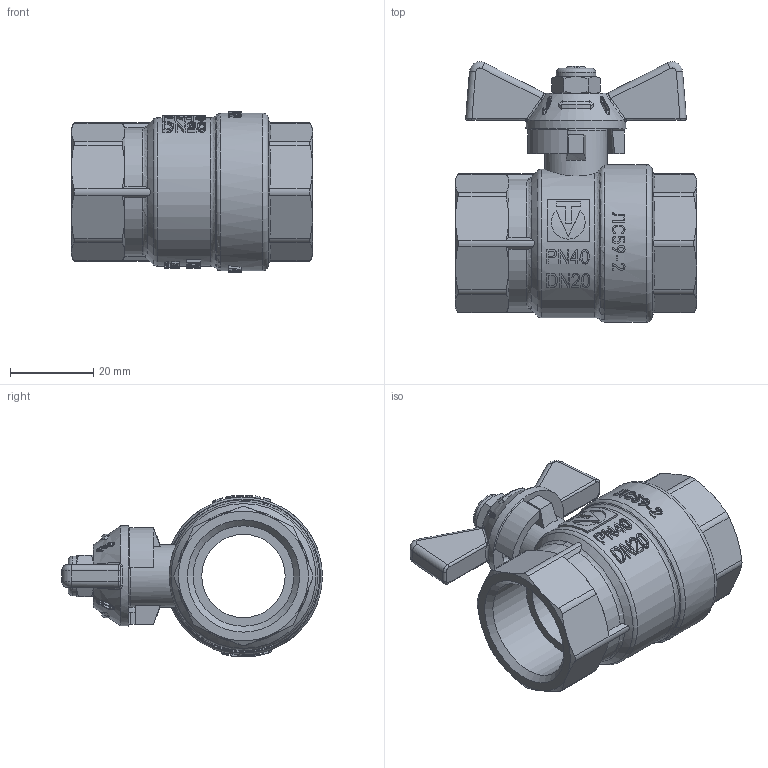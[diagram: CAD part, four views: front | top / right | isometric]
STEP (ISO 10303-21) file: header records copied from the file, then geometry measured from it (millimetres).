
FILE_DESCRIPTION(('STEP AP203'), '1');
FILE_NAME('VT.217S.N.05', '', ('UNSPECIFIED'), ('UNSPECIFIED'), 'C3D Converter', 'C3D Toolkit', '');
FILE_SCHEMA(('CONFIG_CONTROL_DESIGN'));
Length unit declared in the file: millimetre
Products named in the file (1): ВР.491812.051.000 СБ
Bounding box: 57.8 x 62.48 x 38.8 mm (x, y, z)
Volume: 38406 mm3; surface area: 15761.1 mm2
Topology: 1 solids, 1 shells, 1751 faces, 4970 edges, 3275 vertices
Faces by surface type: plane 1420, cylinder 114, extrusion 108, cone 62, bspline 28, torus 19
Full cylindrical faces by diameter (mm): 6 x1, 8 x1, 9.5 x1, 10.5 x1, 12 x1, 15 x1, 20 x1, 24 x1, 24.118 x2, 35.6 x1, 37.8 x1
Entity records: 64442 total; most frequent: CARTESIAN_POINT 26403, ORIENTED_EDGE 9854, DIRECTION 5954, EDGE_CURVE 4927, VERTEX_POINT 3268, AXIS2_PLACEMENT_3D 2006, VECTOR 1942, EDGE_LOOP 1841
